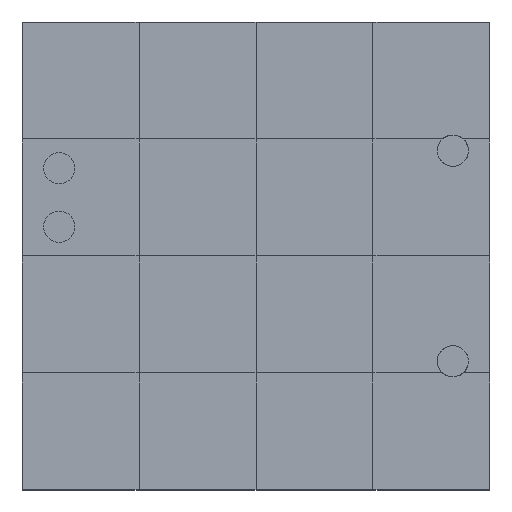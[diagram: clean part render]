
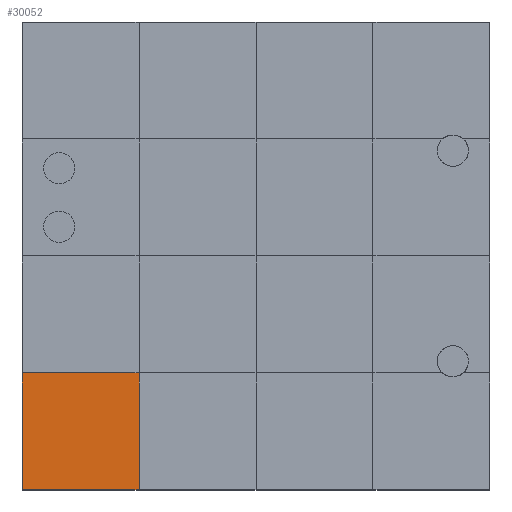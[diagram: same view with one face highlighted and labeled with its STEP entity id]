
A CAD part, top view. The second image highlights one B-rep face of the part: STEP entity #30052.
In plain terms, the highlighted planar face has unit normal (0, 0, 1).
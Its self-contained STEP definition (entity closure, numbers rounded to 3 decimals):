
#29863 = VERTEX_POINT('',#29864);
#29864 = CARTESIAN_POINT('',(0.,0.,1.5));
#29871 = PLANE('',#29872);
#29872 = AXIS2_PLACEMENT_3D('',#29873,#29874,#29875);
#29873 = CARTESIAN_POINT('',(0.,0.,0.));
#29874 = DIRECTION('',(1.,0.,-0.));
#29875 = DIRECTION('',(0.,0.,1.));
#29883 = PLANE('',#29884);
#29884 = AXIS2_PLACEMENT_3D('',#29885,#29886,#29887);
#29885 = CARTESIAN_POINT('',(0.,0.,0.));
#29886 = DIRECTION('',(-0.,1.,0.));
#29887 = DIRECTION('',(0.,0.,1.));
#29924 = VERTEX_POINT('',#29925);
#29925 = CARTESIAN_POINT('',(0.,3.,1.5));
#29951 = EDGE_CURVE('',#29863,#29924,#29952,.T.);
#29952 = SURFACE_CURVE('',#29953,(#29957,#29964),.PCURVE_S1.);
#29953 = LINE('',#29954,#29955);
#29954 = CARTESIAN_POINT('',(0.,0.,1.5));
#29955 = VECTOR('',#29956,1.);
#29956 = DIRECTION('',(-0.,1.,0.));
#29957 = PCURVE('',#29871,#29958);
#29958 = DEFINITIONAL_REPRESENTATION('',(#29959),#29963);
#29959 = LINE('',#29960,#29961);
#29960 = CARTESIAN_POINT('',(1.5,0.));
#29961 = VECTOR('',#29962,1.);
#29962 = DIRECTION('',(0.,-1.));
#29963 = ( GEOMETRIC_REPRESENTATION_CONTEXT(2) 
PARAMETRIC_REPRESENTATION_CONTEXT() REPRESENTATION_CONTEXT('2D SPACE',''
  ) );
#29964 = PCURVE('',#29965,#29970);
#29965 = PLANE('',#29966);
#29966 = AXIS2_PLACEMENT_3D('',#29967,#29968,#29969);
#29967 = CARTESIAN_POINT('',(0.,0.,1.5));
#29968 = DIRECTION('',(0.,0.,1.));
#29969 = DIRECTION('',(1.,0.,-0.));
#29970 = DEFINITIONAL_REPRESENTATION('',(#29971),#29975);
#29971 = LINE('',#29972,#29973);
#29972 = CARTESIAN_POINT('',(0.,0.));
#29973 = VECTOR('',#29974,1.);
#29974 = DIRECTION('',(0.,1.));
#29975 = ( GEOMETRIC_REPRESENTATION_CONTEXT(2) 
PARAMETRIC_REPRESENTATION_CONTEXT() REPRESENTATION_CONTEXT('2D SPACE',''
  ) );
#30004 = EDGE_CURVE('',#29863,#30005,#30007,.T.);
#30005 = VERTEX_POINT('',#30006);
#30006 = CARTESIAN_POINT('',(3.,0.,1.5));
#30007 = SURFACE_CURVE('',#30008,(#30012,#30019),.PCURVE_S1.);
#30008 = LINE('',#30009,#30010);
#30009 = CARTESIAN_POINT('',(0.,0.,1.5));
#30010 = VECTOR('',#30011,1.);
#30011 = DIRECTION('',(1.,0.,-0.));
#30012 = PCURVE('',#29883,#30013);
#30013 = DEFINITIONAL_REPRESENTATION('',(#30014),#30018);
#30014 = LINE('',#30015,#30016);
#30015 = CARTESIAN_POINT('',(1.5,0.));
#30016 = VECTOR('',#30017,1.);
#30017 = DIRECTION('',(0.,1.));
#30018 = ( GEOMETRIC_REPRESENTATION_CONTEXT(2) 
PARAMETRIC_REPRESENTATION_CONTEXT() REPRESENTATION_CONTEXT('2D SPACE',''
  ) );
#30019 = PCURVE('',#29965,#30020);
#30020 = DEFINITIONAL_REPRESENTATION('',(#30021),#30025);
#30021 = LINE('',#30022,#30023);
#30022 = CARTESIAN_POINT('',(0.,0.));
#30023 = VECTOR('',#30024,1.);
#30024 = DIRECTION('',(1.,0.));
#30025 = ( GEOMETRIC_REPRESENTATION_CONTEXT(2) 
PARAMETRIC_REPRESENTATION_CONTEXT() REPRESENTATION_CONTEXT('2D SPACE',''
  ) );
#30052 = ADVANCED_FACE('',(#30053),#29965,.T.);
#30053 = FACE_BOUND('',#30054,.T.);
#30054 = EDGE_LOOP('',(#30055,#30056,#30057,#30085));
#30055 = ORIENTED_EDGE('',*,*,#29951,.F.);
#30056 = ORIENTED_EDGE('',*,*,#30004,.T.);
#30057 = ORIENTED_EDGE('',*,*,#30058,.T.);
#30058 = EDGE_CURVE('',#30005,#30059,#30061,.T.);
#30059 = VERTEX_POINT('',#30060);
#30060 = CARTESIAN_POINT('',(3.,3.,1.5));
#30061 = SURFACE_CURVE('',#30062,(#30066,#30073),.PCURVE_S1.);
#30062 = LINE('',#30063,#30064);
#30063 = CARTESIAN_POINT('',(3.,0.,1.5));
#30064 = VECTOR('',#30065,1.);
#30065 = DIRECTION('',(-0.,1.,0.));
#30066 = PCURVE('',#29965,#30067);
#30067 = DEFINITIONAL_REPRESENTATION('',(#30068),#30072);
#30068 = LINE('',#30069,#30070);
#30069 = CARTESIAN_POINT('',(3.,0.));
#30070 = VECTOR('',#30071,1.);
#30071 = DIRECTION('',(0.,1.));
#30072 = ( GEOMETRIC_REPRESENTATION_CONTEXT(2) 
PARAMETRIC_REPRESENTATION_CONTEXT() REPRESENTATION_CONTEXT('2D SPACE',''
  ) );
#30073 = PCURVE('',#30074,#30079);
#30074 = PLANE('',#30075);
#30075 = AXIS2_PLACEMENT_3D('',#30076,#30077,#30078);
#30076 = CARTESIAN_POINT('',(3.,0.,1.5));
#30077 = DIRECTION('',(0.,0.,1.));
#30078 = DIRECTION('',(1.,0.,-0.));
#30079 = DEFINITIONAL_REPRESENTATION('',(#30080),#30084);
#30080 = LINE('',#30081,#30082);
#30081 = CARTESIAN_POINT('',(0.,0.));
#30082 = VECTOR('',#30083,1.);
#30083 = DIRECTION('',(0.,1.));
#30084 = ( GEOMETRIC_REPRESENTATION_CONTEXT(2) 
PARAMETRIC_REPRESENTATION_CONTEXT() REPRESENTATION_CONTEXT('2D SPACE',''
  ) );
#30085 = ORIENTED_EDGE('',*,*,#30086,.F.);
#30086 = EDGE_CURVE('',#29924,#30059,#30087,.T.);
#30087 = SURFACE_CURVE('',#30088,(#30092,#30099),.PCURVE_S1.);
#30088 = LINE('',#30089,#30090);
#30089 = CARTESIAN_POINT('',(0.,3.,1.5));
#30090 = VECTOR('',#30091,1.);
#30091 = DIRECTION('',(1.,0.,-0.));
#30092 = PCURVE('',#29965,#30093);
#30093 = DEFINITIONAL_REPRESENTATION('',(#30094),#30098);
#30094 = LINE('',#30095,#30096);
#30095 = CARTESIAN_POINT('',(0.,3.));
#30096 = VECTOR('',#30097,1.);
#30097 = DIRECTION('',(1.,0.));
#30098 = ( GEOMETRIC_REPRESENTATION_CONTEXT(2) 
PARAMETRIC_REPRESENTATION_CONTEXT() REPRESENTATION_CONTEXT('2D SPACE',''
  ) );
#30099 = PCURVE('',#30100,#30105);
#30100 = PLANE('',#30101);
#30101 = AXIS2_PLACEMENT_3D('',#30102,#30103,#30104);
#30102 = CARTESIAN_POINT('',(0.,3.,1.5));
#30103 = DIRECTION('',(0.,0.,1.));
#30104 = DIRECTION('',(1.,0.,-0.));
#30105 = DEFINITIONAL_REPRESENTATION('',(#30106),#30110);
#30106 = LINE('',#30107,#30108);
#30107 = CARTESIAN_POINT('',(0.,0.));
#30108 = VECTOR('',#30109,1.);
#30109 = DIRECTION('',(1.,0.));
#30110 = ( GEOMETRIC_REPRESENTATION_CONTEXT(2) 
PARAMETRIC_REPRESENTATION_CONTEXT() REPRESENTATION_CONTEXT('2D SPACE',''
  ) );
